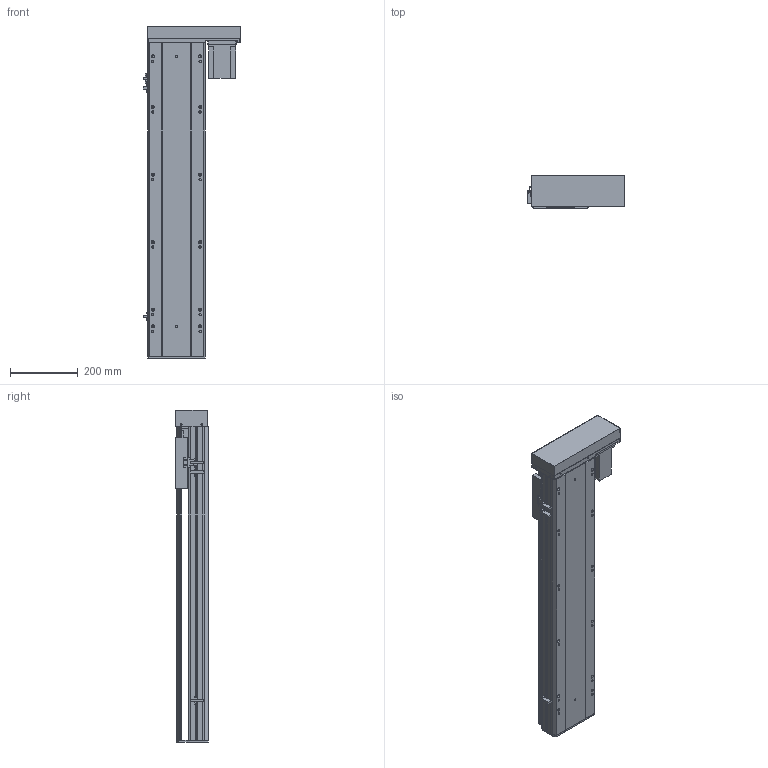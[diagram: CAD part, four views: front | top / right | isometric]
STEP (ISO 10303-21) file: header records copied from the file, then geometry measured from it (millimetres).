
FILE_DESCRIPTION (( 'STEP AP214' ), '1' );
FILE_NAME ('Y170-D10-S700-BR-P750W.STEP', '2020-01-21T12:23:57', ( '微软用户' ), ( '微软中国' ), 'SwSTEP 2.0', 'SolidWorks 2017', '' );
FILE_SCHEMA (( 'AUTOMOTIVE_DESIGN' ));
Length unit declared in the file: millimetre
Products named in the file (12): EGH20賑輸_蕼偞; 侂狟750W; Y170-BL-P750W楊擘啣; 170--掛极-BR; Y170耜裔--準---; Y170-D10-S700-BR-P750W; Y100-135俋离換覜ん; YD-Y100-135-新外置传感挡片(通用）; Y--BL蟀諉啣-陔遴-; Y-BL.BR-俋欶; Y170-陔遴奻裔-BR; Y雄赽釱-耜蚾
Assembly tree (14 placements, depth 2):
  Y170-D10-S700-BR-P750W
    Y170耜裔--準---
    170--掛极-BR
    Y170-BL-P750W楊擘啣
    侂狟750W
    EGH20賑輸_蕼偞  x2
    Y雄赽釱-耜蚾
    Y170-陔遴奻裔-BR
    Y-BL.BR-俋欶
    Y--BL蟀諉啣-陔遴-
    YD-Y100-135-新外置传感挡片(通用）
    Y100-135俋离換覜ん  x3
Bounding box: 289 x 97 x 983.5 mm (x, y, z)
Volume: 4964701 mm3; surface area: 1689672.2 mm2
Topology: 14 solids, 14 shells, 921 faces, 2594 edges, 1712 vertices
Faces by surface type: cylinder 462, plane 443, cone 16
Entity records: 28388 total; most frequent: CARTESIAN_POINT 5150, DIRECTION 4828, ORIENTED_EDGE 4684, EDGE_CURVE 2342, AXIS2_PLACEMENT_3D 1714, VERTEX_POINT 1556, LINE 1400, VECTOR 1400
